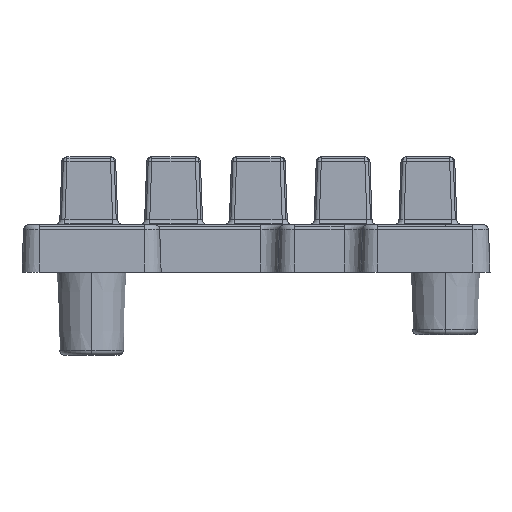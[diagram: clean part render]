
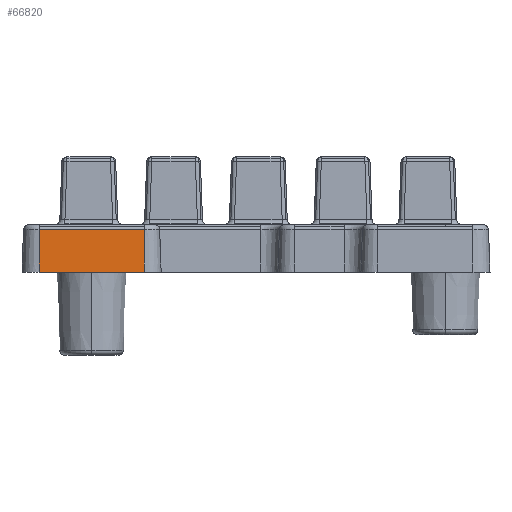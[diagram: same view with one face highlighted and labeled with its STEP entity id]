
A CAD part, left-side view. The second image highlights one B-rep face of the part: STEP entity #66820.
In plain terms, the highlighted planar face has unit normal (-0.999, 0, 0.035).
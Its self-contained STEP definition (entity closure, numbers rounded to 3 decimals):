
#1427 = LINE ( 'NONE', #47160, #41794 ) ;
#3859 = FACE_OUTER_BOUND ( 'NONE', #38461, .T. ) ;
#5565 = LINE ( 'NONE', #10054, #51309 ) ;
#10054 = CARTESIAN_POINT ( 'NONE',  ( 38.074, 58.333, 3.71 ) ) ;
#10911 = DIRECTION ( 'NONE',  ( 0., 1., 0. ) ) ;
#11804 = DIRECTION ( 'NONE',  ( 0., 1., 0. ) ) ;
#13019 = AXIS2_PLACEMENT_3D ( 'NONE', #49263, #66707, #10911 ) ;
#13256 = VERTEX_POINT ( 'NONE', #55170 ) ;
#13324 = DIRECTION ( 'NONE',  ( -0.035, 0., -0.999 ) ) ;
#22968 = CARTESIAN_POINT ( 'NONE',  ( 37.986, 56.381, 1.2 ) ) ;
#23197 = VECTOR ( 'NONE', #38634, 1000. ) ;
#24048 = CARTESIAN_POINT ( 'NONE',  ( 37.986, 62.53, 1.2 ) ) ;
#25515 = EDGE_CURVE ( 'NONE', #51496, #65045, #1427, .T. ) ;
#26546 = PLANE ( 'NONE',  #13019 ) ;
#32024 = VECTOR ( 'NONE', #11804, 1000. ) ;
#35691 = EDGE_CURVE ( 'NONE', #68065, #13256, #54673, .T. ) ;
#38461 = EDGE_LOOP ( 'NONE', ( #49618, #56511, #50412, #40979 ) ) ;
#38634 = DIRECTION ( 'NONE',  ( -0.035, 0., -0.999 ) ) ;
#40979 = ORIENTED_EDGE ( 'NONE', *, *, #35691, .F. ) ;
#41794 = VECTOR ( 'NONE', #13324, 1000. ) ;
#43485 = CARTESIAN_POINT ( 'NONE',  ( 37.986, 56.331, 1.2 ) ) ;
#45088 = EDGE_CURVE ( 'NONE', #51496, #68065, #5565, .T. ) ;
#47160 = CARTESIAN_POINT ( 'NONE',  ( 37.986, 62.53, 1.2 ) ) ;
#49263 = CARTESIAN_POINT ( 'NONE',  ( 37.986, 56.381, 1.2 ) ) ;
#49618 = ORIENTED_EDGE ( 'NONE', *, *, #45088, .F. ) ;
#50412 = ORIENTED_EDGE ( 'NONE', *, *, #65046, .F. ) ;
#51309 = VECTOR ( 'NONE', #66955, 1000. ) ;
#51340 = CARTESIAN_POINT ( 'NONE',  ( 38.074, 56.331, 3.71 ) ) ;
#51496 = VERTEX_POINT ( 'NONE', #69311 ) ;
#54673 = LINE ( 'NONE', #43485, #23197 ) ;
#55170 = CARTESIAN_POINT ( 'NONE',  ( 37.986, 56.331, 1.2 ) ) ;
#56511 = ORIENTED_EDGE ( 'NONE', *, *, #25515, .T. ) ;
#57200 = LINE ( 'NONE', #22968, #32024 ) ;
#65045 = VERTEX_POINT ( 'NONE', #24048 ) ;
#65046 = EDGE_CURVE ( 'NONE', #13256, #65045, #57200, .T. ) ;
#66707 = DIRECTION ( 'NONE',  ( -0.999, 0., 0.035 ) ) ;
#66820 = ADVANCED_FACE ( 'NONE', ( #3859 ), #26546, .T. ) ;
#66955 = DIRECTION ( 'NONE',  ( 0., -1., 0. ) ) ;
#68065 = VERTEX_POINT ( 'NONE', #51340 ) ;
#69311 = CARTESIAN_POINT ( 'NONE',  ( 38.074, 62.53, 3.71 ) ) ;
